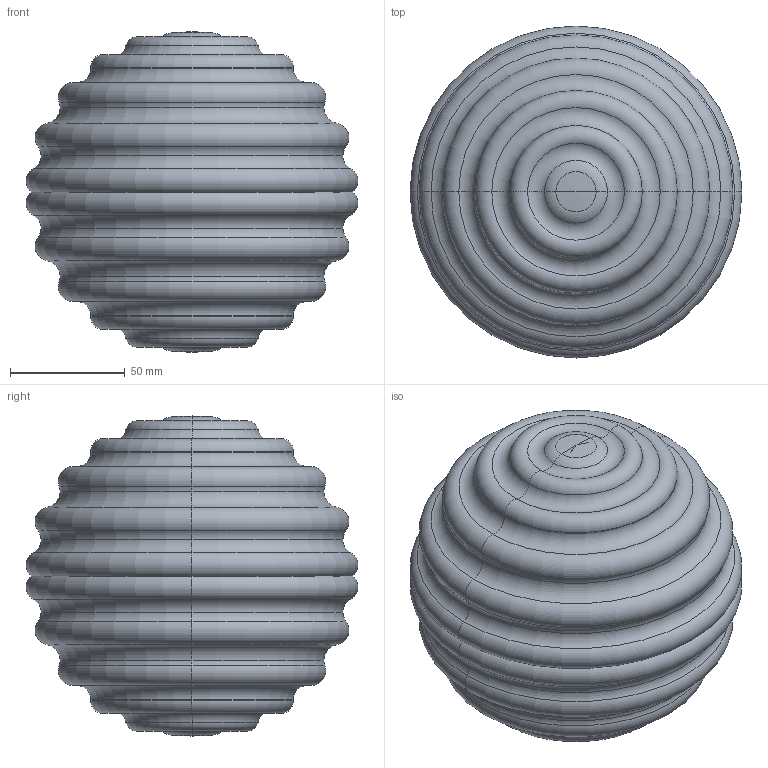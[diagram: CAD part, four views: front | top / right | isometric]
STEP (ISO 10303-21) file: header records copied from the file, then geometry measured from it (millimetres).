
FILE_DESCRIPTION (( 'STEP AP214' ), '1' );
FILE_NAME ('BOLA RIZADA 14.STEP', '2026-02-11T16:49:58', ( '' ), ( '' ), 'SwSTEP 2.0', 'SolidWorks 2023', '' );
FILE_SCHEMA (( 'AUTOMOTIVE_DESIGN' ));
Length unit declared in the file: millimetre
Products named in the file (1): BOLA RIZADA 14
Bounding box: 144.89 x 144.89 x 140 mm (x, y, z)
Volume: 1453400.5 mm3; surface area: 71896.1 mm2
Topology: 1 solids, 1 shells, 60 faces, 122 edges, 60 vertices
Faces by surface type: torus 56, cone 4
Entity records: 1571 total; most frequent: DIRECTION 354, CARTESIAN_POINT 239, ORIENTED_EDGE 236, AXIS2_PLACEMENT_3D 175, EDGE_CURVE 118, CIRCLE 114, ADVANCED_FACE 60, VERTEX_POINT 60
